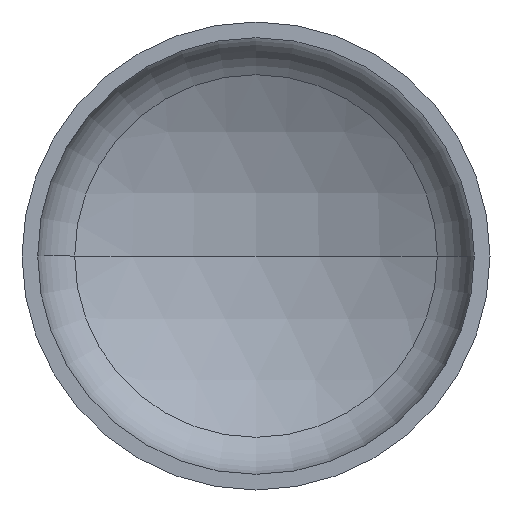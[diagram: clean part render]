
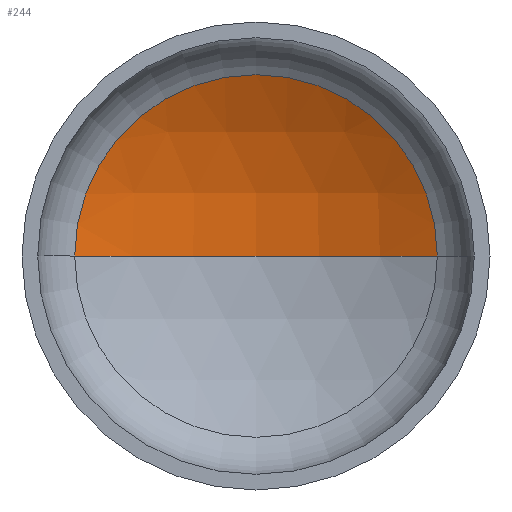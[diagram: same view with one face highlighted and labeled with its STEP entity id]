
A CAD part, front view. The second image highlights one B-rep face of the part: STEP entity #244.
In plain terms, the highlighted spherical face has radius 406 mm.
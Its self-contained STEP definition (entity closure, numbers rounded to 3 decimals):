
#6 = ORIENTED_EDGE ( 'NONE', *, *, #365, .F. ) ;
#32 = CIRCLE ( 'NONE', #44, 406. ) ;
#34 = ORIENTED_EDGE ( 'NONE', *, *, #163, .T. ) ;
#44 = AXIS2_PLACEMENT_3D ( 'NONE', #224, #385, #321 ) ;
#49 = VERTEX_POINT ( 'NONE', #242 ) ;
#66 = EDGE_LOOP ( 'NONE', ( #6, #34, #171 ) ) ;
#73 = VERTEX_POINT ( 'NONE', #216 ) ;
#84 = VERTEX_POINT ( 'NONE', #331 ) ;
#91 = AXIS2_PLACEMENT_3D ( 'NONE', #255, #197, #187 ) ;
#116 = AXIS2_PLACEMENT_3D ( 'NONE', #268, #248, #174 ) ;
#117 = AXIS2_PLACEMENT_3D ( 'NONE', #338, #199, #317 ) ;
#136 = CIRCLE ( 'NONE', #116, 406. ) ;
#159 = EDGE_CURVE ( 'NONE', #73, #84, #209, .T. ) ;
#163 = EDGE_CURVE ( 'NONE', #49, #73, #136, .T. ) ;
#171 = ORIENTED_EDGE ( 'NONE', *, *, #159, .T. ) ;
#174 = DIRECTION ( 'NONE',  ( -1., 0., 0. ) ) ;
#187 = DIRECTION ( 'NONE',  ( -1., 0., 0. ) ) ;
#197 = DIRECTION ( 'NONE',  ( 0., 0., -1. ) ) ;
#199 = DIRECTION ( 'NONE',  ( 0., -1., 0. ) ) ;
#200 = SPHERICAL_SURFACE ( 'NONE', #91, 406. ) ;
#209 = CIRCLE ( 'NONE', #117, 196.811 ) ;
#216 = CARTESIAN_POINT ( 'NONE',  ( 196.811, 123.223, 0. ) ) ;
#224 = CARTESIAN_POINT ( 'NONE',  ( 0., -231.885, 0. ) ) ;
#242 = CARTESIAN_POINT ( 'NONE',  ( 0., 174.115, 0. ) ) ;
#244 = ADVANCED_FACE ( 'NONE', ( #324 ), #200, .F. ) ;
#248 = DIRECTION ( 'NONE',  ( 0., 0., -1. ) ) ;
#255 = CARTESIAN_POINT ( 'NONE',  ( 0., -231.885, 0. ) ) ;
#268 = CARTESIAN_POINT ( 'NONE',  ( 0., -231.885, 0. ) ) ;
#317 = DIRECTION ( 'NONE',  ( 1., 0., 0. ) ) ;
#321 = DIRECTION ( 'NONE',  ( 1., 0., 0. ) ) ;
#324 = FACE_OUTER_BOUND ( 'NONE', #66, .T. ) ;
#331 = CARTESIAN_POINT ( 'NONE',  ( -196.811, 123.223, 0. ) ) ;
#338 = CARTESIAN_POINT ( 'NONE',  ( 0., 123.223, 0. ) ) ;
#365 = EDGE_CURVE ( 'NONE', #49, #84, #32, .T. ) ;
#385 = DIRECTION ( 'NONE',  ( 0., 0., 1. ) ) ;
